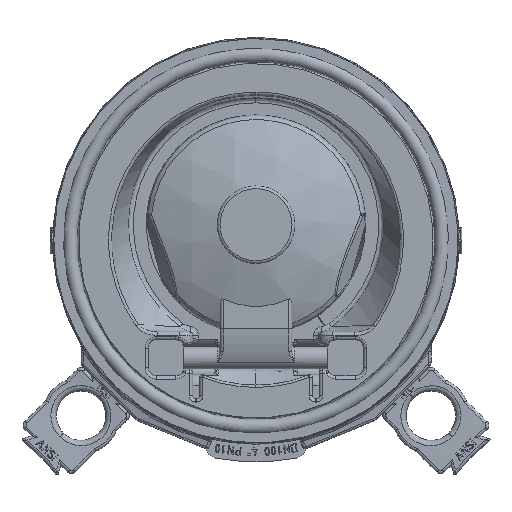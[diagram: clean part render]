
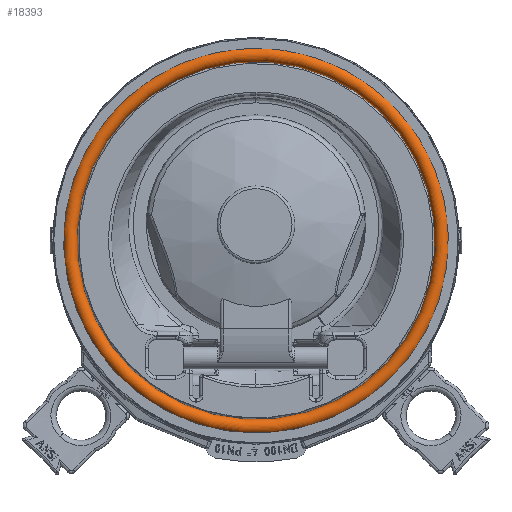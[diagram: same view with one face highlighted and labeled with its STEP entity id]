
A CAD part, top view. The second image highlights one B-rep face of the part: STEP entity #18393.
In plain terms, the highlighted toroidal (fillet/blend) face has major radius 67.77 mm and minor radius 2.67 mm.
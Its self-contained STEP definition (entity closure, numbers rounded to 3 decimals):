
#993=TOROIDAL_SURFACE('',#19927,67.77,2.67);
#2152=FACE_OUTER_BOUND('',#3287,.T.);
#3287=EDGE_LOOP('',(#17110,#17112,#17111,#17113));
#4015=CIRCLE('',#19928,2.67);
#4016=CIRCLE('',#19929,70.44);
#8836=VERTEX_POINT('',#102194);
#11594=EDGE_CURVE('',#8836,#8836,#4015,.T.);
#11595=EDGE_CURVE('',#8836,#8836,#4016,.T.);
#17110=ORIENTED_EDGE('',*,*,#11594,.T.);
#17111=ORIENTED_EDGE('',*,*,#11594,.F.);
#17112=ORIENTED_EDGE('',*,*,#11595,.T.);
#17113=ORIENTED_EDGE('',*,*,#11595,.F.);
#18393=ADVANCED_FACE('',(#2152),#993,.T.);
#19927=AXIS2_PLACEMENT_3D('',#102191,#24018,#24019);
#19928=AXIS2_PLACEMENT_3D('',#102192,#24020,#24021);
#19929=AXIS2_PLACEMENT_3D('',#102193,#24022,#24023);
#24018=DIRECTION('center_axis',(0.,1.,0.));
#24019=DIRECTION('ref_axis',(0.,0.,1.));
#24020=DIRECTION('center_axis',(-1.,0.,0.));
#24021=DIRECTION('ref_axis',(0.,0.,1.));
#24022=DIRECTION('center_axis',(0.,-1.,0.));
#24023=DIRECTION('ref_axis',(0.,0.,1.));
#102191=CARTESIAN_POINT('Origin',(0.,0.,0.));
#102192=CARTESIAN_POINT('Origin',(0.,0.,67.77));
#102193=CARTESIAN_POINT('Origin',(0.,0.,0.));
#102194=CARTESIAN_POINT('',(0.,0.,70.44));
